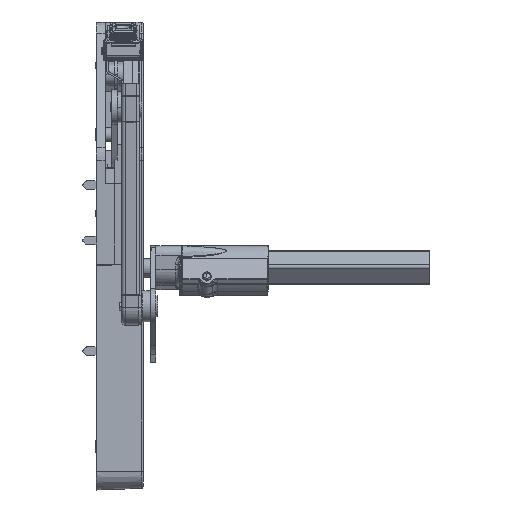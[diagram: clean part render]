
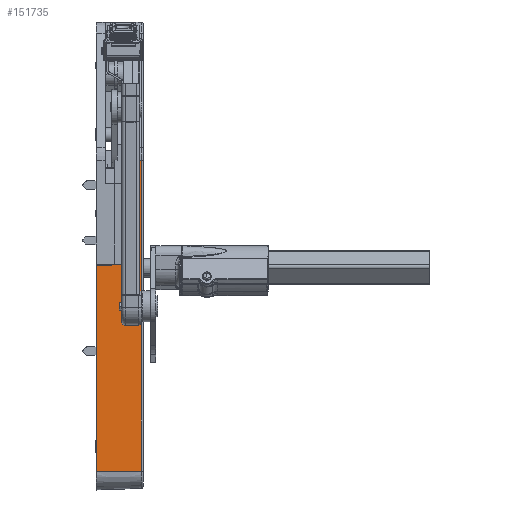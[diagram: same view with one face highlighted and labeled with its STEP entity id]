
A CAD part, front view. The second image highlights one B-rep face of the part: STEP entity #151735.
In plain terms, the highlighted planar face has unit normal (0.035, -0.999, 0).
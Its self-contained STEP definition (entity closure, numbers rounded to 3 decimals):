
#142897=DIRECTION('',(0.999,0.035,0.));
#142898=VECTOR('',#142897,26.051);
#142899=CARTESIAN_POINT('',(0.,-121.969,
-259.3));
#142900=LINE('',#142899,#142898);
#142935=DIRECTION('',(0.,0.,1.));
#142936=VECTOR('',#142935,179.375);
#142937=CARTESIAN_POINT('',(26.035,-121.06,-259.3));
#142938=LINE('',#142937,#142936);
#142942=DIRECTION('',(0.,0.,1.));
#142943=VECTOR('',#142942,119.067);
#142944=CARTESIAN_POINT('',(0.,-121.969,
-259.3));
#142945=LINE('',#142944,#142943);
#142949=DIRECTION('',(0.,0.,1.));
#142950=VECTOR('',#142949,59.575);
#142951=CARTESIAN_POINT('',(21.,-121.236,-139.5));
#142952=LINE('',#142951,#142950);
#142970=DIRECTION('',(-0.999,-0.035,
-0.035));
#142971=VECTOR('',#142970,21.026);
#142972=CARTESIAN_POINT('',(21.,-121.236,-139.5));
#142973=LINE('',#142972,#142971);
#142984=DIRECTION('',(-0.999,-0.035,
0.));
#142985=VECTOR('',#142984,5.038);
#142986=CARTESIAN_POINT('',(26.035,-121.06,
-79.925));
#142987=LINE('',#142986,#142985);
#149293=CARTESIAN_POINT('',(0.,-121.969,
-140.233));
#149294=VERTEX_POINT('',#149293);
#149295=CARTESIAN_POINT('',(0.,-121.969,
-259.3));
#149296=VERTEX_POINT('',#149295);
#149367=CARTESIAN_POINT('',(21.,-121.236,-79.925));
#149368=VERTEX_POINT('',#149367);
#149369=CARTESIAN_POINT('',(21.,-121.236,-139.5));
#149370=VERTEX_POINT('',#149369);
#150665=CARTESIAN_POINT('',(26.035,-121.06,-259.3));
#150666=VERTEX_POINT('',#150665);
#150667=CARTESIAN_POINT('',(26.035,-121.06,
-79.925));
#150668=VERTEX_POINT('',#150667);
#151720=CARTESIAN_POINT('',(27.,-121.026,-79.925));
#151721=DIRECTION('',(0.035,-0.999,0.));
#151722=DIRECTION('',(0.,0.,-1.));
#151723=AXIS2_PLACEMENT_3D('',#151720,#151721,#151722);
#151724=PLANE('',#151723);
#151725=ORIENTED_EDGE('',*,*,#151706,.F.);
#151726=ORIENTED_EDGE('',*,*,#151667,.F.);
#151727=ORIENTED_EDGE('',*,*,#150704,.T.);
#151729=ORIENTED_EDGE('',*,*,#151728,.F.);
#151730=ORIENTED_EDGE('',*,*,#150808,.T.);
#151732=ORIENTED_EDGE('',*,*,#151731,.F.);
#151733=EDGE_LOOP('',(#151725,#151726,#151727,#151729,#151730,#151732));
#151734=FACE_OUTER_BOUND('',#151733,.F.);
#150704=EDGE_CURVE('',#149296,#149294,#142945,.T.);
#150808=EDGE_CURVE('',#149370,#149368,#142952,.T.);
#151667=EDGE_CURVE('',#149296,#150666,#142900,.T.);
#151706=EDGE_CURVE('',#150666,#150668,#142938,.T.);
#151728=EDGE_CURVE('',#149370,#149294,#142973,.T.);
#151731=EDGE_CURVE('',#150668,#149368,#142987,.T.);
#151735=ADVANCED_FACE('',(#151734),#151724,.T.);
